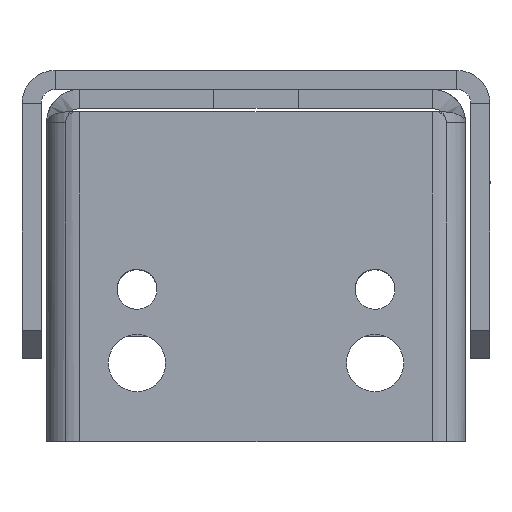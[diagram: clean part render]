
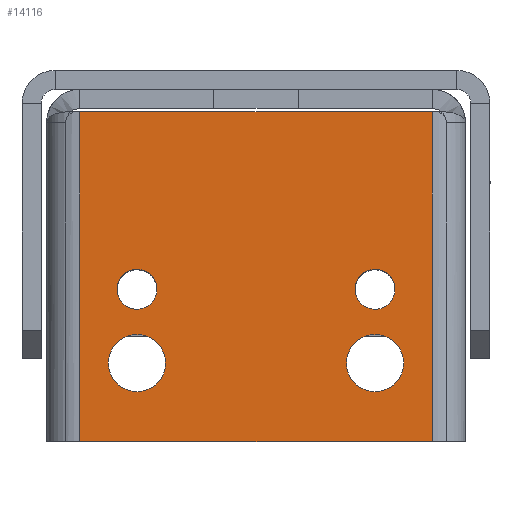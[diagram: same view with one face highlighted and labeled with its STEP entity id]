
A CAD part, left-side view. The second image highlights one B-rep face of the part: STEP entity #14116.
In plain terms, the highlighted planar face has unit normal (-1, 0, 0) as drawn and (0, 0, 1) by its records, which use the part's own axes.
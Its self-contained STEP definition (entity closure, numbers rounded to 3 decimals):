
#14116=ADVANCED_FACE('',(#27036,#27038,#27040,#27042,#27044),#27046,.F.);
#27036=FACE_BOUND('',#27037,.T.);
#27037=EDGE_LOOP('',(#36365,#36366,#36367,#36368));
#27038=FACE_BOUND('',#27039,.T.);
#27039=EDGE_LOOP('',(#36369));
#27040=FACE_BOUND('',#27041,.T.);
#27041=EDGE_LOOP('',(#36370));
#27042=FACE_BOUND('',#27043,.T.);
#27043=EDGE_LOOP('',(#36371));
#27044=FACE_BOUND('',#27045,.T.);
#27045=EDGE_LOOP('',(#36372));
#27046=PLANE('',#27047);
#27047=AXIS2_PLACEMENT_3D('',#27048,#27049,#27050);
#27048=CARTESIAN_POINT('',(18.5,22.,0.));
#27049=DIRECTION('',(0.,0.,-1.));
#27050=DIRECTION('',(-1.,0.,0.));
#36365=ORIENTED_EDGE('',*,*,#40935,.F.);
#36366=ORIENTED_EDGE('',*,*,#40936,.T.);
#36367=ORIENTED_EDGE('',*,*,#40937,.T.);
#36368=ORIENTED_EDGE('',*,*,#40938,.F.);
#36369=ORIENTED_EDGE('',*,*,#40885,.F.);
#36370=ORIENTED_EDGE('',*,*,#40887,.F.);
#36371=ORIENTED_EDGE('',*,*,#40889,.F.);
#36372=ORIENTED_EDGE('',*,*,#40891,.F.);
#40885=EDGE_CURVE('',#48409,#48409,#48410,.T.);
#40887=EDGE_CURVE('',#48413,#48413,#48414,.T.);
#40889=EDGE_CURVE('',#48417,#48417,#48418,.T.);
#40891=EDGE_CURVE('',#48421,#48421,#48422,.T.);
#40935=EDGE_CURVE('',#48501,#48502,#48503,.T.);
#40936=EDGE_CURVE('',#48501,#48504,#48505,.T.);
#40937=EDGE_CURVE('',#48504,#48506,#48507,.T.);
#40938=EDGE_CURVE('',#48502,#48506,#48508,.T.);
#48409=VERTEX_POINT('',#66465);
#48410=CIRCLE('',#66466,2.1);
#48413=VERTEX_POINT('',#66475);
#48414=CIRCLE('',#66476,3.);
#48417=VERTEX_POINT('',#66485);
#48418=CIRCLE('',#66486,2.1);
#48421=VERTEX_POINT('',#66495);
#48422=CIRCLE('',#66496,3.);
#48501=VERTEX_POINT('',#66665);
#48502=VERTEX_POINT('',#66666);
#48503=LINE('',#66667,#66668);
#48504=VERTEX_POINT('',#66670);
#48505=LINE('',#66671,#66672);
#48506=VERTEX_POINT('',#66674);
#48507=LINE('',#66675,#66676);
#48508=LINE('',#66678,#66679);
#66465=CARTESIAN_POINT('',(-0.4,-12.5,0.));
#66466=AXIS2_PLACEMENT_3D('',#66467,#66468,#66469);
#66467=CARTESIAN_POINT('',(-2.5,-12.5,0.));
#66468=DIRECTION('',(0.,0.,1.));
#66469=DIRECTION('',(-1.,0.,0.));
#66475=CARTESIAN_POINT('',(-7.25,-12.5,0.));
#66476=AXIS2_PLACEMENT_3D('',#66477,#66478,#66479);
#66477=CARTESIAN_POINT('',(-10.25,-12.5,0.));
#66478=DIRECTION('',(0.,0.,1.));
#66479=DIRECTION('',(-1.,0.,0.));
#66485=CARTESIAN_POINT('',(-0.4,12.5,0.));
#66486=AXIS2_PLACEMENT_3D('',#66487,#66488,#66489);
#66487=CARTESIAN_POINT('',(-2.5,12.5,0.));
#66488=DIRECTION('',(0.,0.,1.));
#66489=DIRECTION('',(-1.,0.,0.));
#66495=CARTESIAN_POINT('',(-7.25,12.5,0.));
#66496=AXIS2_PLACEMENT_3D('',#66497,#66498,#66499);
#66497=CARTESIAN_POINT('',(-10.25,12.5,0.));
#66498=DIRECTION('',(0.,0.,1.));
#66499=DIRECTION('',(-1.,0.,0.));
#66665=CARTESIAN_POINT('',(16.146,18.5,0.));
#66666=CARTESIAN_POINT('',(16.146,-18.5,0.));
#66667=CARTESIAN_POINT('',(16.146,18.5,0.));
#66668=VECTOR('',#66669,1.);
#66669=DIRECTION('',(0.,-1.,0.));
#66670=CARTESIAN_POINT('',(-18.5,18.5,0.));
#66671=CARTESIAN_POINT('',(16.146,18.5,0.));
#66672=VECTOR('',#66673,1.);
#66673=DIRECTION('',(-1.,0.,0.));
#66674=CARTESIAN_POINT('',(-18.5,-18.5,0.));
#66675=CARTESIAN_POINT('',(-18.5,18.5,0.));
#66676=VECTOR('',#66677,1.);
#66677=DIRECTION('',(0.,-1.,0.));
#66678=CARTESIAN_POINT('',(16.146,-18.5,0.));
#66679=VECTOR('',#66680,1.);
#66680=DIRECTION('',(-1.,0.,0.));
